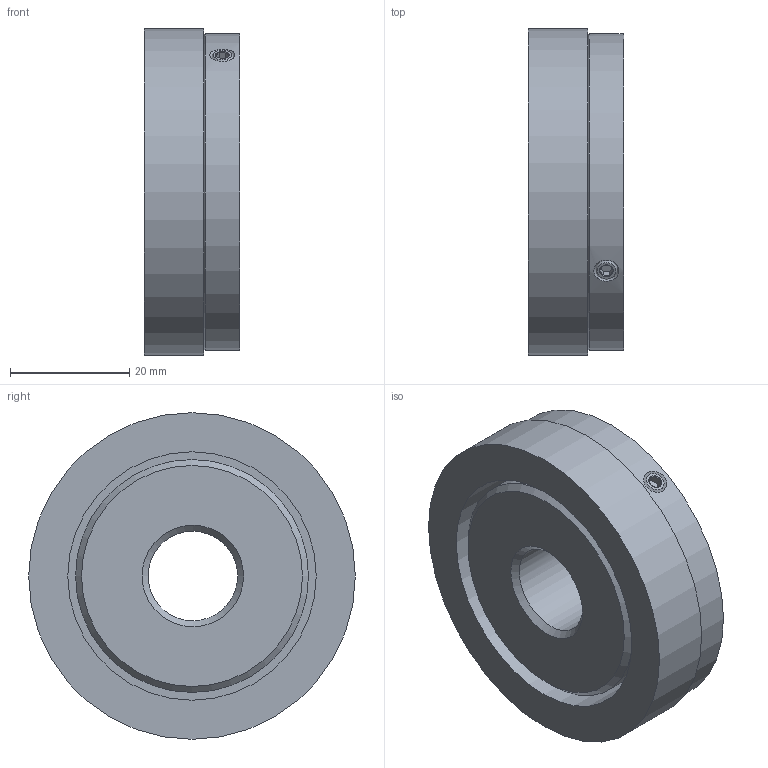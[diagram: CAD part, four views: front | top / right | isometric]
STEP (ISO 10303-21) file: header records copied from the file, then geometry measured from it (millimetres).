
FILE_DESCRIPTION (( 'STEP AP203' ), '1' );
FILE_NAME ('8.RI50.055.1500.112.STEP', '2013-07-17T13:26:21', ( 'Hodot' ), ( '' ), 'SwSTEP 2.0', 'SolidWorks 2012', '' );
FILE_SCHEMA (( 'CONFIG_CONTROL_DESIGN' ));
Length unit declared in the file: millimetre
Products named in the file (1): 8.RI50.055.1500.112
Bounding box: 16 x 54.7 x 54.7 mm (x, y, z)
Volume: 31210.4 mm3; surface area: 12347.7 mm2
Topology: 4 solids, 4 shells, 54 faces, 104 edges, 60 vertices
Faces by surface type: cone 23, plane 22, cylinder 9
Full cylindrical faces by diameter (mm): 3.3 x2, 4 x2, 15 x1, 39 x1, 41.6 x1, 53 x1, 54.7 x1
Entity records: 1513 total; most frequent: CARTESIAN_POINT 473, DIRECTION 206, ORIENTED_EDGE 152, AXIS2_PLACEMENT_3D 91, EDGE_LOOP 84, EDGE_CURVE 76, FACE_OUTER_BOUND 63, ADVANCED_FACE 54
